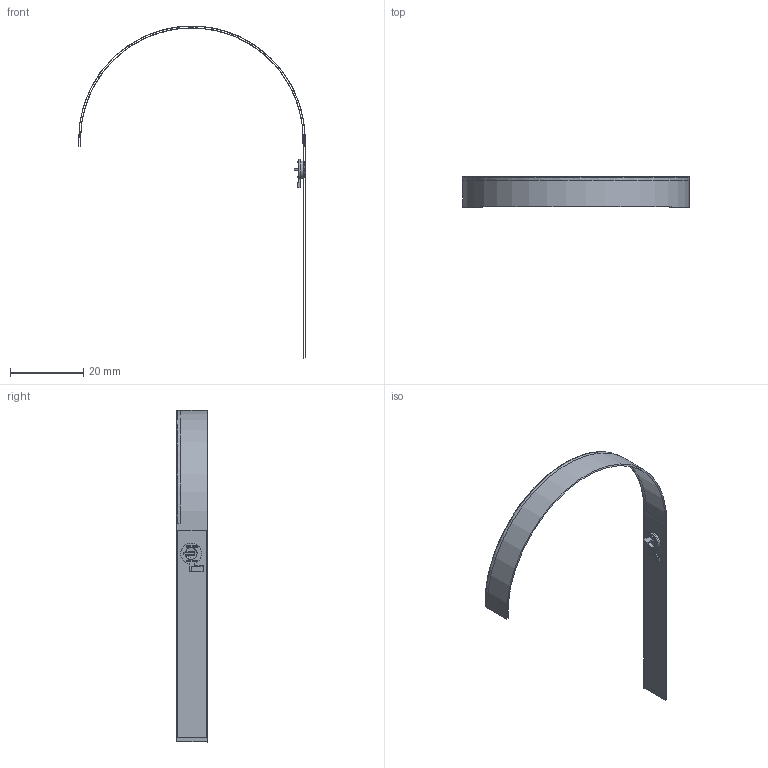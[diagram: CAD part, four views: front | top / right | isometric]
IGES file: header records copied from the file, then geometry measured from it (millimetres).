
Start section:  PTC IGES file: gtc01-a-mkt01_prt.igs
Global section: file name: gtc01-a-mkt01_prt.igs; native system: Pro/ENGINEER by Parametric Technology Corporation; preprocessor: 2006170; author: GRA; organization: Unknown; date: 20080630.105150; units: millimetre
Bounding box: 62.09 x 8.32 x 90.87 mm (x, y, z)
Surface area: 15368.6 mm2 (no closed solid volume)
Topology: 0 solids, 0 shells, 59 faces, 366 edges, 414 vertices
Faces by surface type: bspline 37, revolution 19, extrusion 3
